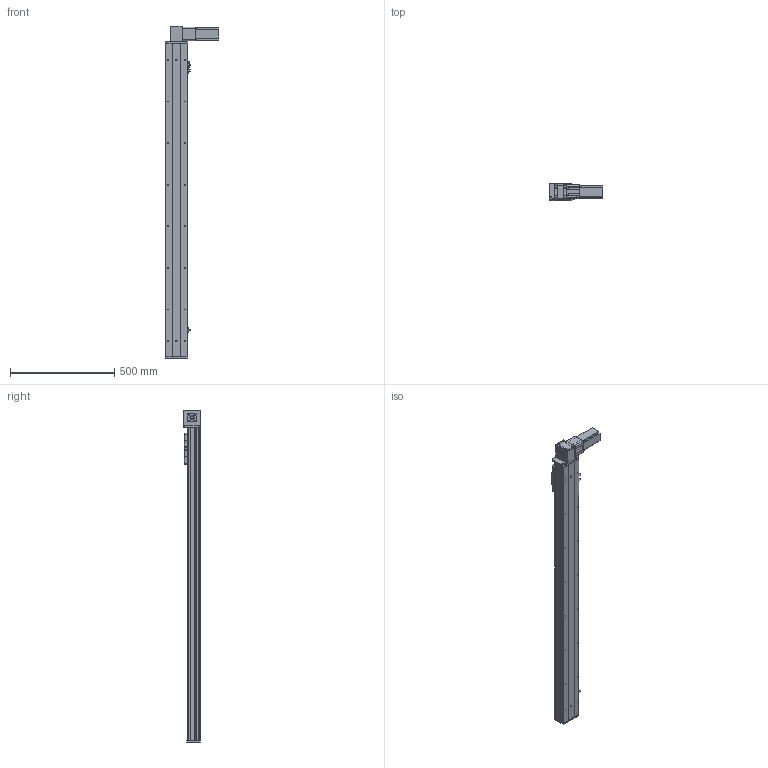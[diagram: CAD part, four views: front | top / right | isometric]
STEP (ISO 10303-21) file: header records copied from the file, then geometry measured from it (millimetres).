
FILE_DESCRIPTION (( 'STEP AP203' ), '1' );
FILE_NAME ('Y10CB-D90-S1250-BD-P400W.STEP', '2020-02-17T02:38:32', ( '微软用户' ), ( '微软中国' ), 'SwSTEP 2.0', 'SolidWorks 2017', '' );
FILE_SCHEMA (( 'CONFIG_CONTROL_DESIGN' ));
Length unit declared in the file: millimetre
Products named in the file (16): 10CB9-掛极; 0Cb-俋欶---; 10CB-耜裔; Y10B-々湍喘謫眊楊擘啣--; Y135C-陔俋离換覜結え-; san松下电机400不带刹车----; Y100-135俋离換覜ん--; 0B-源倛裔啣; Y10B--々湍喘謫眊--666; 0B-埴倛裔啣; 0B-薊粣ん眊; 10CB-詩湍-; Y10CB-D90-S1250-BD-P400W; Y10CB- 掛极耜裔啣-毀---; Y10C---詩湍揤啣; 0CB-雄赽釱---
Assembly tree (19 placements, depth 2):
  Y10CB-D90-S1250-BD-P400W
    0CB-雄赽釱---
    0Cb-俋欶---
    Y10B-々湍喘謫眊楊擘啣--
    san松下电机400不带刹车----
    0B-源倛裔啣
    0B-埴倛裔啣
    10CB-詩湍-
    Y10CB- 掛极耜裔啣-毀---  x2
    Y10C---詩湍揤啣  x2
    10CB9-掛极
    10CB-耜裔
    Y135C-陔俋离換覜結え-
    Y100-135俋离換覜ん--  x3
    Y10B--々湍喘謫眊--666
    0B-薊粣ん眊
Bounding box: 258 x 80.5 x 1596 mm (x, y, z)
Volume: 3572552.9 mm3; surface area: 1587878.8 mm2
Topology: 19 solids, 19 shells, 912 faces, 2422 edges, 1580 vertices
Faces by surface type: cylinder 450, plane 438, cone 24
Entity records: 28069 total; most frequent: CARTESIAN_POINT 5052, DIRECTION 4525, ORIENTED_EDGE 4314, EDGE_CURVE 2157, AXIS2_PLACEMENT_3D 1623, VERTEX_POINT 1406, LINE 1279, VECTOR 1279
